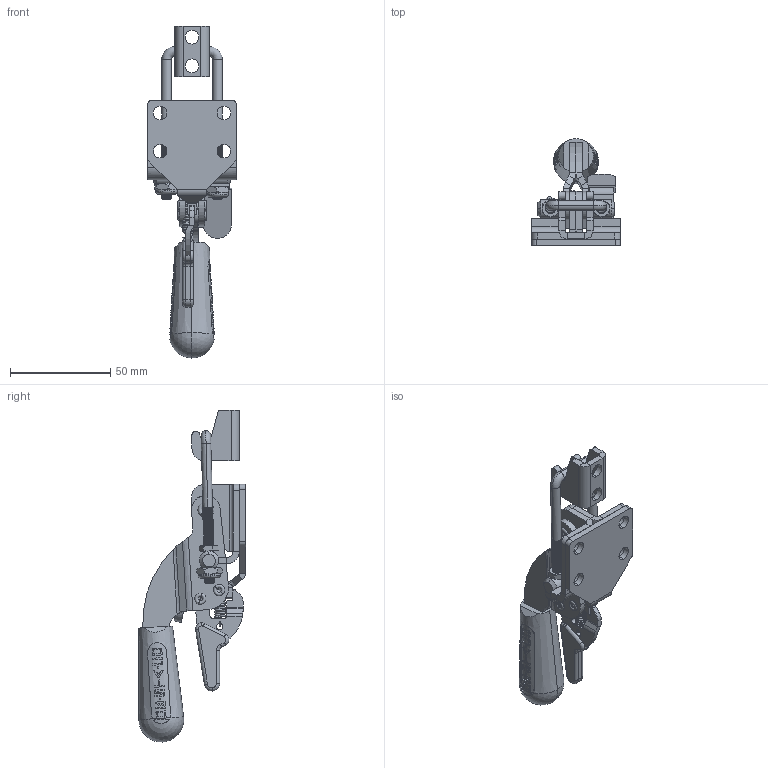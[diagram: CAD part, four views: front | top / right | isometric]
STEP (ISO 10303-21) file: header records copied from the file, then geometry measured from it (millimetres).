
FILE_DESCRIPTION((''),'2;1');
FILE_NAME('001_DESTACO_323_331_341_ASM','2024-11-20T',('SYSTEM'),(''),'PRO/ENGINEER BY PARAMETRIC TECHNOLOGY CORPORATION, 2016360','PRO/ENGINEER BY PARAMETRIC TECHNOLOGY CORPORATION, 2016360','');
FILE_SCHEMA(('AUTOMOTIVE_DESIGN { 1 0 10303 214 1 1 1 1 }'));
Products named in the file (30): 331B331004; 331BKNURLED_BUSHINGS_331012; 331BA331-232_ASM; 331BROLLED_RIVET_MODEL__184; 331B331003; 331BB331_B331_ASM; 331-BODY_ASM; 331HERGONOMIC_GRIP_207301; 331H331008_CLINCHED_HANDLE; 331H331009_CLINCHED_HANDLE; 331HROLLED_RIVET_MOD_; 331HH331_H331_ASM; 331-HANDLE_ASM; 331CHEX_JAM_NUT_M5; 331C331007_331907; 331CNYLON_INSERT_L15; 331C331006_331906; 331_ARI_S; 331-CLAMP_ASM; ARI323; 331L331005; 331-LATCH_ASM; 331RA331204_A331204; 331R331917-MODEL; 331RB331204_B331204_ASM; 331R102119_102119; 331-R-TOG_ASM; 31EX331203; 331-R-EX-BODY_ASM; 001_DESTACO_323_331_341_ASM
Assembly tree (33 placements, depth 5):
  001_DESTACO_323_331_341_ASM
    331-BODY_ASM
      331BB331_B331_ASM
        331B331004
        331BA331-232_ASM
          331BKNURLED_BUSHINGS_331012
        331BROLLED_RIVET_MODEL__184
        331BKNURLED_BUSHINGS_331012
        331B331003
    331-HANDLE_ASM
      331HH331_H331_ASM
        331HERGONOMIC_GRIP_207301
        331H331008_CLINCHED_HANDLE
        331H331009_CLINCHED_HANDLE
        331HROLLED_RIVET_MOD_  x2
    331-CLAMP_ASM
      331CHEX_JAM_NUT_M5  x2
      331C331007_331907
      331CNYLON_INSERT_L15  x2
      331C331006_331906
      331_ARI_S
    ARI323
    331-LATCH_ASM
      331L331005
    331-R-TOG_ASM
      331RB331204_B331204_ASM
        331RA331204_A331204
        331R331917-MODEL
      331R102119_102119
    331-R-EX-BODY_ASM
      31EX331203
Bounding box: 44.45 x 53.35 x 165.5 mm (x, y, z)
Volume: 53405.6 mm3; surface area: 42873.2 mm2
Topology: 23 solids, 23 shells, 1429 faces, 3233 edges, 1875 vertices
Faces by surface type: cone 700, plane 379, cylinder 272, torus 56, bspline 16, sphere 6
Entity records: 78918 total; most frequent: CARTESIAN_POINT 37061, DIRECTION 6823, ORIENTED_EDGE 6094, PRESENTATION_STYLE_ASSIGNMENT 3104, STYLED_ITEM 3066, CURVE_STYLE 3047, EDGE_CURVE 3047, AXIS2_PLACEMENT_3D 2721
